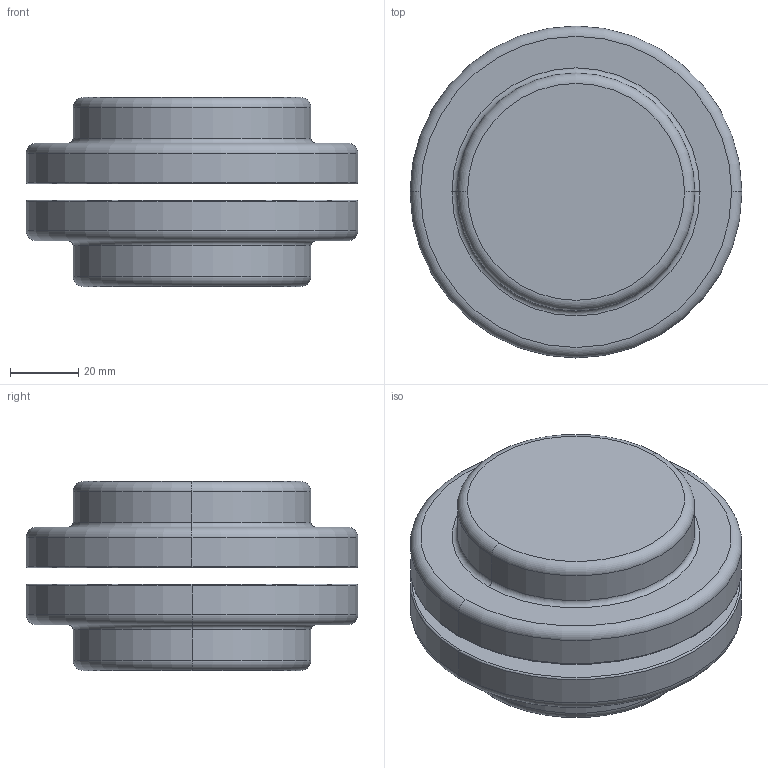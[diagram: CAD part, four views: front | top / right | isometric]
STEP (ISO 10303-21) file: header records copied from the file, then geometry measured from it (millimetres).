
FILE_DESCRIPTION (( 'STEP AP214' ), '1' );
FILE_NAME ('mobac_2x MTD-5 (ohne Bohrung).STEP', '2023-05-09T08:09:59', ( '' ), ( '' ), 'SwSTEP 2.0', 'SolidWorks 2022', '' );
FILE_SCHEMA (( 'AUTOMOTIVE_DESIGN' ));
Length unit declared in the file: millimetre
Products named in the file (1): mobac_2x MTD-5 (ohne Bohrung)
Bounding box: 97.54 x 97.54 x 55.58 mm (x, y, z)
Volume: 279690.9 mm3; surface area: 41299.8 mm2
Topology: 2 solids, 2 shells, 30 faces, 56 edges, 32 vertices
Faces by surface type: torus 16, cylinder 8, plane 6
Entity records: 803 total; most frequent: DIRECTION 166, CARTESIAN_POINT 119, ORIENTED_EDGE 112, AXIS2_PLACEMENT_3D 79, EDGE_CURVE 56, CIRCLE 48, VERTEX_POINT 32, EDGE_LOOP 32
